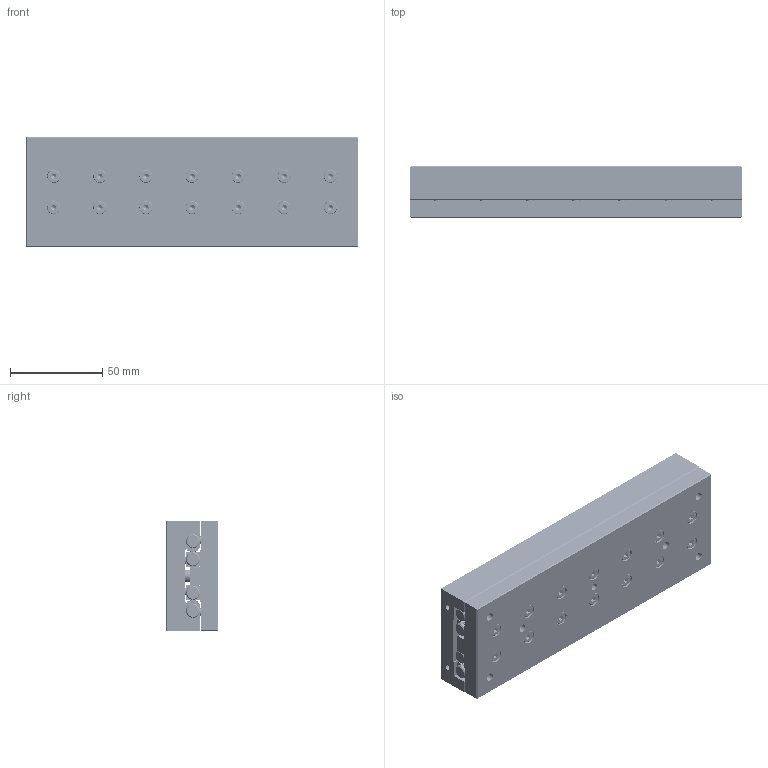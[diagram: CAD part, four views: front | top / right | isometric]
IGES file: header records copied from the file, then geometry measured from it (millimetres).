
Start section: SolidWorks IGES file using analytic representation for surfaces
Global section: file name: C:\Documents and Settings\IanO.IANOHOME\My Documents\Wix and Auto CAD Work\CAD Models\Parametric Models\Auto Models\L1020\L1020_IGES\L1020.060-180.igs; native system: SolidWorks 2009; preprocessor: SolidWorks 2009; author: IanO; date: 110922.162736; units: millimetre
Bounding box: 180 x 28 x 60 mm (x, y, z)
Surface area: 110462.1 mm2 (no closed solid volume)
Topology: 0 solids, 0 shells, 2098 faces, 28620 edges, 28550 vertices
Faces by surface type: bspline 1308, revolution 790
